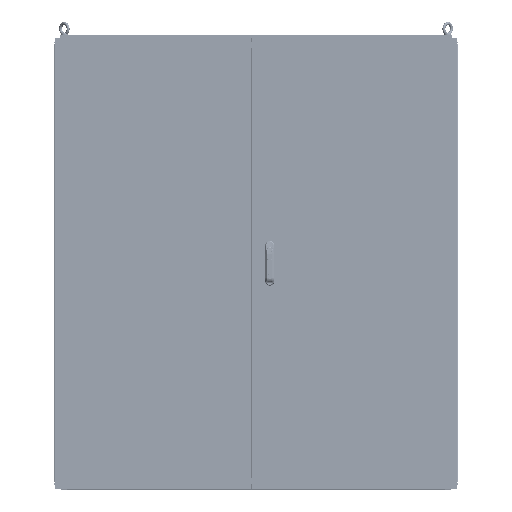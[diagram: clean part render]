
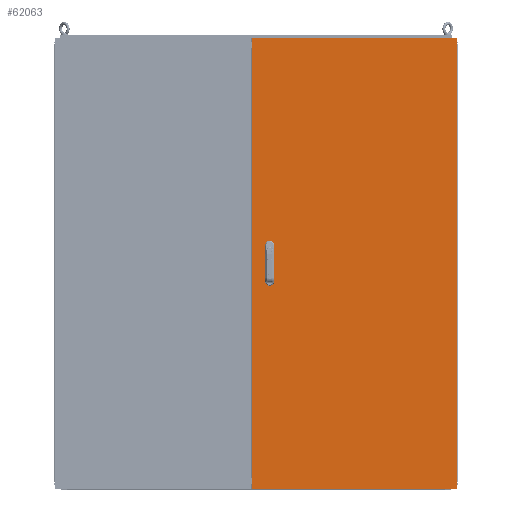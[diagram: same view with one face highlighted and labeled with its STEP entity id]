
A CAD part, front view. The second image highlights one B-rep face of the part: STEP entity #62063.
In plain terms, the highlighted planar face has unit normal (0, -1, 0).
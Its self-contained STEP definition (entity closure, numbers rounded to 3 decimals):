
#1739=PLANE('',#67983);
#5808=ORIENTED_EDGE('',*,*,#22656,.T.);
#5809=ORIENTED_EDGE('',*,*,#22657,.T.);
#5810=ORIENTED_EDGE('',*,*,#22658,.T.);
#5811=ORIENTED_EDGE('',*,*,#22659,.T.);
#5812=ORIENTED_EDGE('',*,*,#22660,.T.);
#5813=ORIENTED_EDGE('',*,*,#22661,.T.);
#5814=ORIENTED_EDGE('',*,*,#22662,.T.);
#5815=ORIENTED_EDGE('',*,*,#22663,.T.);
#5816=ORIENTED_EDGE('',*,*,#22629,.F.);
#5817=ORIENTED_EDGE('',*,*,#22638,.F.);
#5818=ORIENTED_EDGE('',*,*,#22653,.F.);
#5819=ORIENTED_EDGE('',*,*,#22635,.F.);
#22629=EDGE_CURVE('',#31074,#31075,#37067,.T.);
#22635=EDGE_CURVE('',#31075,#31080,#37071,.T.);
#22638=EDGE_CURVE('',#31082,#31074,#37074,.T.);
#22653=EDGE_CURVE('',#31080,#31082,#37089,.T.);
#22656=EDGE_CURVE('',#31092,#31093,#37092,.T.);
#22657=EDGE_CURVE('',#31093,#31094,#37093,.T.);
#22658=EDGE_CURVE('',#31094,#31095,#37094,.T.);
#22659=EDGE_CURVE('',#31095,#31092,#37095,.T.);
#22660=EDGE_CURVE('',#31096,#31097,#37096,.T.);
#22661=EDGE_CURVE('',#31097,#31098,#37097,.T.);
#22662=EDGE_CURVE('',#31098,#31099,#37098,.T.);
#22663=EDGE_CURVE('',#31099,#31096,#37099,.T.);
#31074=VERTEX_POINT('',#90038);
#31075=VERTEX_POINT('',#90040);
#31080=VERTEX_POINT('',#90058);
#31082=VERTEX_POINT('',#90063);
#31092=VERTEX_POINT('',#90119);
#31093=VERTEX_POINT('',#90120);
#31094=VERTEX_POINT('',#90122);
#31095=VERTEX_POINT('',#90124);
#31096=VERTEX_POINT('',#90127);
#31097=VERTEX_POINT('',#90128);
#31098=VERTEX_POINT('',#90130);
#31099=VERTEX_POINT('',#90132);
#37067=LINE('',#90039,#43687);
#37071=LINE('',#90057,#43691);
#37074=LINE('',#90064,#43694);
#37089=LINE('',#90113,#43709);
#37092=LINE('',#90118,#43712);
#37093=LINE('',#90121,#43713);
#37094=LINE('',#90123,#43714);
#37095=LINE('',#90125,#43715);
#37096=LINE('',#90126,#43716);
#37097=LINE('',#90129,#43717);
#37098=LINE('',#90131,#43718);
#37099=LINE('',#90133,#43719);
#43687=VECTOR('',#73183,1000.);
#43691=VECTOR('',#73189,1000.);
#43694=VECTOR('',#73194,1000.);
#43709=VECTOR('',#73219,1000.);
#43712=VECTOR('',#73226,1000.);
#43713=VECTOR('',#73227,1000.);
#43714=VECTOR('',#73228,1000.);
#43715=VECTOR('',#73229,1000.);
#43716=VECTOR('',#73230,1000.);
#43717=VECTOR('',#73231,1000.);
#43718=VECTOR('',#73232,1000.);
#43719=VECTOR('',#73233,1000.);
#50317=EDGE_LOOP('',(#5808,#5809,#5810,#5811));
#50318=EDGE_LOOP('',(#5812,#5813,#5814,#5815));
#50319=EDGE_LOOP('',(#5816,#5817,#5818,#5819));
#55808=FACE_BOUND('',#50317,.T.);
#55809=FACE_BOUND('',#50318,.T.);
#55810=FACE_BOUND('',#50319,.T.);
#62063=ADVANCED_FACE('',(#55808,#55809,#55810),#1739,.F.);
#67983=AXIS2_PLACEMENT_3D('',#90117,#73224,#73225);
#73183=DIRECTION('',(0.,0.,1.));
#73189=DIRECTION('',(1.,0.,0.));
#73194=DIRECTION('',(-1.,0.,0.));
#73219=DIRECTION('',(0.,0.,-1.));
#73224=DIRECTION('',(0.,1.,0.));
#73225=DIRECTION('',(1.,0.,0.));
#73226=DIRECTION('',(-1.,0.,0.));
#73227=DIRECTION('',(0.,0.,1.));
#73228=DIRECTION('',(1.,0.,0.));
#73229=DIRECTION('',(0.,0.,-1.));
#73230=DIRECTION('',(-1.,0.,0.));
#73231=DIRECTION('',(0.,0.,1.));
#73232=DIRECTION('',(1.,0.,0.));
#73233=DIRECTION('',(0.,0.,-1.));
#90038=CARTESIAN_POINT('',(-37.711,-13.,-895.));
#90039=CARTESIAN_POINT('',(-37.711,-13.,-895.));
#90040=CARTESIAN_POINT('',(-37.711,-13.,895.));
#90057=CARTESIAN_POINT('',(-37.711,-13.,895.));
#90058=CARTESIAN_POINT('',(775.8,-13.,895.));
#90063=CARTESIAN_POINT('',(775.8,-13.,-895.));
#90064=CARTESIAN_POINT('',(775.8,-13.,-895.));
#90113=CARTESIAN_POINT('',(775.8,-13.,895.));
#90117=CARTESIAN_POINT('',(0.,-13.,0.));
#90118=CARTESIAN_POINT('',(44.789,-13.,-75.));
#90119=CARTESIAN_POINT('',(44.789,-13.,-75.));
#90120=CARTESIAN_POINT('',(19.789,-13.,-75.));
#90121=CARTESIAN_POINT('',(19.789,-13.,-75.));
#90122=CARTESIAN_POINT('',(19.789,-13.,-25.));
#90123=CARTESIAN_POINT('',(19.789,-13.,-25.));
#90124=CARTESIAN_POINT('',(44.789,-13.,-25.));
#90125=CARTESIAN_POINT('',(44.789,-13.,-25.));
#90126=CARTESIAN_POINT('',(44.789,-13.,25.));
#90127=CARTESIAN_POINT('',(44.789,-13.,25.));
#90128=CARTESIAN_POINT('',(19.789,-13.,25.));
#90129=CARTESIAN_POINT('',(19.789,-13.,25.));
#90130=CARTESIAN_POINT('',(19.789,-13.,75.));
#90131=CARTESIAN_POINT('',(19.789,-13.,75.));
#90132=CARTESIAN_POINT('',(44.789,-13.,75.));
#90133=CARTESIAN_POINT('',(44.789,-13.,75.));
